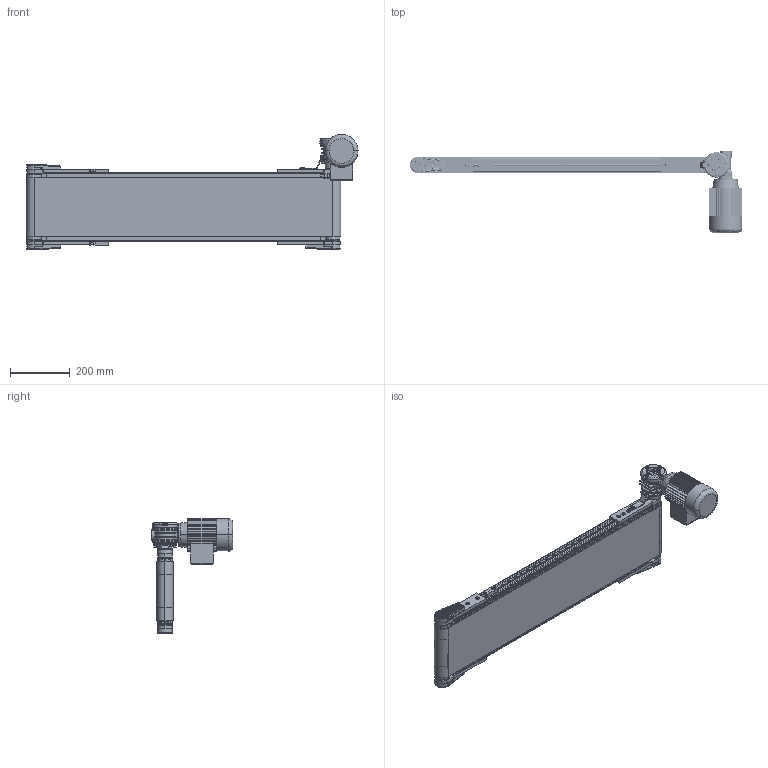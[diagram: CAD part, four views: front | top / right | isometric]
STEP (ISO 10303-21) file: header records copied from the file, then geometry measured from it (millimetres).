
FILE_DESCRIPTION (( 'STEP AP203' ), '1' );
FILE_NAME ('NASTRO_RETTILINEO_TAPPETO.step', '2026-05-25T08:04:28', ( 'Utente Windows' ), ( '' ), 'SwSTEP 2.0', 'SolidWorks 2024', '' );
FILE_SCHEMA (( 'CONFIG_CONTROL_DESIGN' ));
Length unit declared in the file: millimetre
Products named in the file (44): 084.302.000 DADI ALUSIC 13x13-1_084.302.004; VITI TSEI UNI 5933 INOX_0412UNI5933A2; BLOCCO_TRAINO_50_STANDARD_30_DX; 084.803.018; 084.811.001; 084.802.062; TELAIO_50_STANDARD_Default<A macchina>; BLOCCO_PERNO_50_30; 084.302.000 DADI ALUSIC 13x13-1_084.302.007; 084.807.002_084.807.002; BLOCCO_PERNO_50_RINVIO; VITI TE UNI 5739_M6x16 UNI 5739; VITI TSEI UNI 5933_M5x12 UNI 5933; 084.811.004; 14UNI7435; 084.802.065_Default<A macchina>; VITI TCEI UNI 5931_M6x12 UNI 5931; 084.301.000 VITI ALUSIC_084.301.003; VITE_RONDELLA_M8X20; CHIAVETTE_A 5x5x20 UNI 6604-69; 084.303.001; LAMIERA_STANDARD; 084.810.001; 084.802.061; RONDELLE FASCIA LARGA UNI 6593_5.4x20 UNI 6593; CH03P_DX; 084.808.012; 084.802.071; 084.802.008; BLOCCO_BRACCIO_CH03P_VF30P; 084.802.017_084.802.017; 084.302.000 DADI ALUSIC 13x13_084.302.004; VITI TSEI UNI 5933_M4x10 UNI 5933; BLOCCO_TRAINO_50_STANDARD; 0820ISO2342; BLOCCO_RINVIO_50_STANDARD; 084.807.003_084.807.003<A macchina>; VITE_DADO_M5X12; 084.301.000 VITI ALUSIC_084.301.009; TAPPETO_STANDARD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
Assembly tree (80 placements, depth 4):
  NASTRO_RETTILINEO_TAPPETO
    TAPPETO_STANDARD
    TELAIO_50_STANDARD_Default<A macchina>
    LAMIERA_STANDARD
    RULLO_50_Default<A macchina>  x2
    BLOCCO_PERNO_50_30
      084.810.001
      084.811.001
      RONDELLE FASCIA LARGA UNI 6593_5.4x20 UNI 6593
      084.301.000 VITI ALUSIC_084.301.009
      CHIAVETTE_A 5x5x40 UNI 6604-69
      CHIAVETTE_A 5x5x20 UNI 6604-69
      14UNI7435
    BLOCCO_TRAINO_50_STANDARD_30_DX
      084.807.003_084.807.003<A macchina>
      084.802.017_084.802.017
      084.301.000 VITI ALUSIC_084.301.003  x2
      084.302.000 DADI ALUSIC 13x13-1_084.302.004  x2
      BLOCCO_BRACCIO_CH03P_VF30P
        084.808.012
        084.802.062
        0820ISO2342
        084.802.061
        VITI TE UNI 5739_M6x16 UNI 5739  x4
        084.803.018
        VITI TCEI UNI 5931_M6x12 UNI 5931  x4
      084.802.065_Default<A macchina>
      VITI TCEI UNI 5931_M4x25 UNI 5931  x2
    BLOCCO_PERNO_50_RINVIO  x3
      084.811.004
      084.810.001
    BLOCCO_TRAINO_50_STANDARD
      084.807.002_084.807.002
      084.802.017_084.802.017
      084.301.000 VITI ALUSIC_084.301.003  x2
      084.302.000 DADI ALUSIC 13x13-1_084.302.004  x2
      084.802.071
      VITI TSEI UNI 5933 INOX_0412UNI5933A2  x2
    BLOCCO_RINVIO_50_STANDARD  x2
      084.807.002_084.807.002
      084.802.017_084.802.017
      084.802.008
      084.301.000 VITI ALUSIC_084.301.003
      084.302.000 DADI ALUSIC 13x13_084.302.004
      VITI TSEI UNI 5933_M4x10 UNI 5933
      084.802.071
    VITE_RONDELLA_M8X20  x3
      084.303.001
      084.301.000 VITI ALUSIC_084.301.003
    VITE_DADO_M5X12  x6
      084.302.000 DADI ALUSIC 13x13-1_084.302.007
      VITI TSEI UNI 5933_M5x12 UNI 5933
    CH03P_DX
Bounding box: 1112 x 273 x 385 mm (x, y, z)
Volume: 5381845.2 mm3; surface area: 3361148.4 mm2
Topology: 110 solids, 116 shells, 5998 faces, 15542 edges, 9938 vertices
Faces by surface type: plane 2926, cylinder 1667, cone 541, bspline 509, torus 317, sphere 38
Entity records: 133557 total; most frequent: CARTESIAN_POINT 39911, ORIENTED_EDGE 19160, DIRECTION 17537, EDGE_CURVE 9580, VERTEX_POINT 6158, AXIS2_PLACEMENT_3D 6080, VECTOR 5377, LINE 5377
